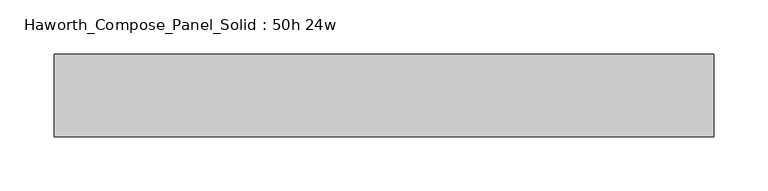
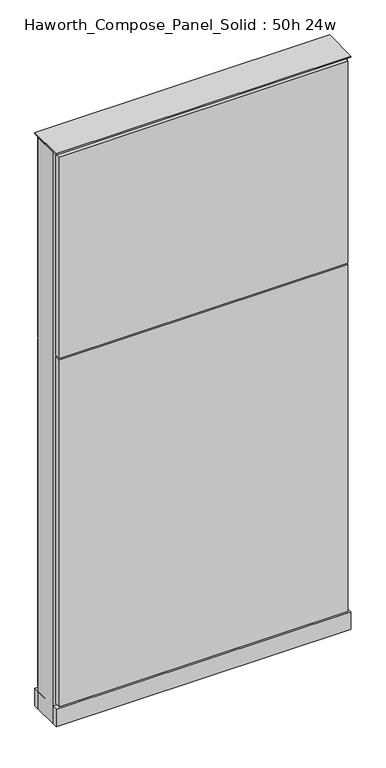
"""IFC4 building model written with IfcOpenShell, lengths in millimetres: furniture geometry, Haworth_Compose_Panel_Solid : 50h 24w."""

from ifc_helpers import new_model, si_unit, point, frame, frame_2d, origin, origin_with_axes, place, context, project, spatial, polyline, circle_curve, trimmed, segment, composite_curve, outline, extrude, source, transform, mapped, element, save


def haworth_compose_panel_solid_50h_24w_9f980fa6(model_context):
    return source(origin(), model_context, "Body", "SweptSolid", [
        extrude(outline(composite_curve([segment(trimmed(circle_curve(frame_2d((-226.1597098, 0.0)), 12.7), [point((-238.8597098, 0.0))], [point((-213.4597098, 0.0))], False, "CARTESIAN"), True, "CONTINUOUS"), segment(trimmed(circle_curve(frame_2d((-226.1597098, 0.0)), 12.7), [point((-213.4597098, 0.0))], [point((-238.8597098, 0.0))], False, "CARTESIAN"), True, "CONTINUOUS")], self_intersect=False)), origin_with_axes(), (0.0, 0.0, 1.0), 12.7),
        extrude(outline(composite_curve([segment(trimmed(circle_curve(frame_2d((231.0402902, 0.0)), 12.7), [point((218.3402902, 0.0))], [point((243.7402902, 0.0))], False, "CARTESIAN"), True, "CONTINUOUS"), segment(trimmed(circle_curve(frame_2d((231.0402902, 0.0)), 12.7), [point((243.7402902, 0.0))], [point((218.3402902, 0.0))], False, "CARTESIAN"), True, "CONTINUOUS")], self_intersect=False)), origin_with_axes(), (0.0, 0.0, 1.0), 12.7),
        extrude(outline(polyline([(300.8902902, -38.1), (-296.0097098, -38.1), (-296.0097098, -25.4), (300.8902902, -25.4), (300.8902902, -38.1)])), frame((0.0, 0.0, 815.975), z_axis=(0.0, 0.0, 1.0), x_axis=(1.0, 0.0, 0.0)), (0.0, 0.0, 1.0), 441.325),
        extrude(outline(polyline([(300.8902902, -38.1), (-296.0097098, -38.1), (-296.0097098, -25.4), (300.8902902, -25.4), (300.8902902, -38.1)])), frame((0.0, 0.0, 53.975), z_axis=(0.0, 0.0, 1.0), x_axis=(1.0, 0.0, 0.0)), (0.0, 0.0, 1.0), 758.825),
        extrude(outline(polyline([(300.8902902, 38.1), (300.8902902, 25.4), (-296.0097098, 25.4), (-296.0097098, 38.1), (300.8902902, 38.1)])), frame((0.0, 0.0, 815.975), z_axis=(0.0, 0.0, 1.0), x_axis=(1.0, 0.0, 0.0)), (0.0, 0.0, 1.0), 441.325),
        extrude(outline(polyline([(300.8902902, 38.1), (300.8902902, 25.4), (-296.0097098, 25.4), (-296.0097098, 38.1), (300.8902902, 38.1)])), frame((0.0, 0.0, 53.975), z_axis=(0.0, 0.0, 1.0), x_axis=(1.0, 0.0, 0.0)), (0.0, 0.0, 1.0), 758.825),
        extrude(outline(polyline([(307.2402902, -25.4), (-302.3597098, -25.4), (-302.3597098, 25.4), (307.2402902, 25.4), (307.2402902, -25.4)])), frame((0.0, 0.0, 12.7), z_axis=(0.0, 0.0, 1.0), x_axis=(1.0, 0.0, 0.0)), (0.0, 0.0, 1.0), 1250.95),
        extrude(outline(polyline([(-302.3597098, 38.1), (307.2402902, 38.1), (307.2402902, -38.1), (-302.3597098, -38.1), (-302.3597098, 38.1)])), frame((0.0, 0.0, 12.7), z_axis=(0.0, 0.0, 1.0), x_axis=(1.0, 0.0, 0.0)), (0.0, 0.0, 1.0), 38.1),
        extrude(outline(polyline([(-302.3597098, 38.1), (307.2402902, 38.1), (307.2402902, -38.1), (-302.3597098, -38.1), (-302.3597098, 38.1)])), frame((0.0, 0.0, 1263.65), z_axis=(0.0, 0.0, 1.0), x_axis=(1.0, 0.0, 0.0)), (0.0, 0.0, 1.0), 3.175),
    ])


if __name__ == "__main__":
    model = new_model("IFC4")
    model_context = context("Model", 3, world=origin())
    ifc_project = project(units=[si_unit("LENGTHUNIT", "METRE", prefix="MILLI")], contexts=[model_context])
    site = spatial("IfcSite", under=ifc_project)
    building = spatial("IfcBuilding", under=site)
    placement = place(None, origin())
    haworth_compose_panel_solid_50h_24w_shape = haworth_compose_panel_solid_50h_24w_9f980fa6(model_context)
    element("IfcFurniture", 1, ObjectType="Haworth_Compose_Panel_Solid : 50h 24w", at=placement, inside=building, context=model_context, shape_type="MappedRepresentation", body=[
        mapped(haworth_compose_panel_solid_50h_24w_shape, transform((0.0, 0.0, 0.0), x_axis=(1.0, 0.0, 0.0), y_axis=(0.0, 1.0, 0.0), z_axis=(0.0, 0.0, 1.0))),
    ])
    save(model, "model.ifc")
